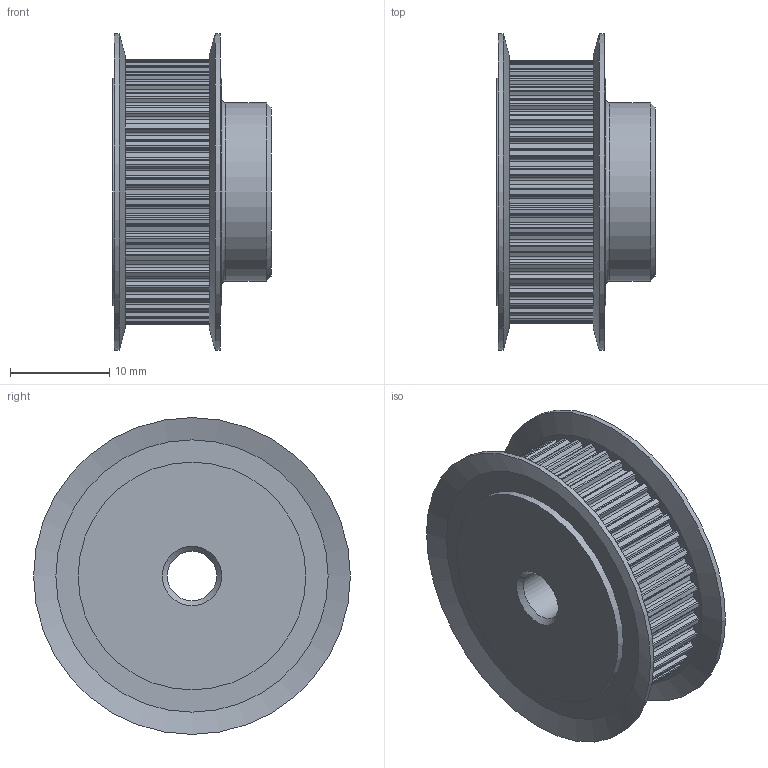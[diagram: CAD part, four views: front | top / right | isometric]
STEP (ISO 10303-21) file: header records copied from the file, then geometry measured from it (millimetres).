
FILE_DESCRIPTION(/* description */ ('PULEGGE 42 MXL 025/F'),/* implementation_level */ '2;1');
FILE_NAME(/* name */ 'w:\documenti\Disegni dwg\Catalogo\Pulegge\MXL\025\Step (caricati)\42025142.stp',/* time_stamp */ '2023-06-08T10:59:51+02:00',/* author */ ('carlo.bersi'),/* organization */ (''),/* preprocessor_version */ 'ST-DEVELOPER v19',/* originating_system */ 'Autodesk Inventor 2023',/* authorisation */ '');
FILE_SCHEMA (('CONFIG_CONTROL_DESIGN'));
Length unit declared in the file: millimetre
Products named in the file (3): 42025142; 42025142P; 49200509
Assembly tree (3 placements, depth 2):
  42025142
    42025142P
    49200509  x2
Bounding box: 16 x 32 x 32 mm (x, y, z)
Volume: 6861.5 mm3; surface area: 4450.8 mm2
Topology: 3 solids, 3 shells, 361 faces, 1049 edges, 697 vertices
Faces by surface type: cylinder 218, plane 135, cone 7, torus 1
Full cylindrical faces by diameter (mm): 5 x1, 18 x1, 23 x4, 32 x2
Entity records: 12085 total; most frequent: DIRECTION 2201, CARTESIAN_POINT 2091, ORIENTED_EDGE 2078, EDGE_CURVE 1039, AXIS2_PLACEMENT_3D 801, VERTEX_POINT 691, LINE 599, VECTOR 599
